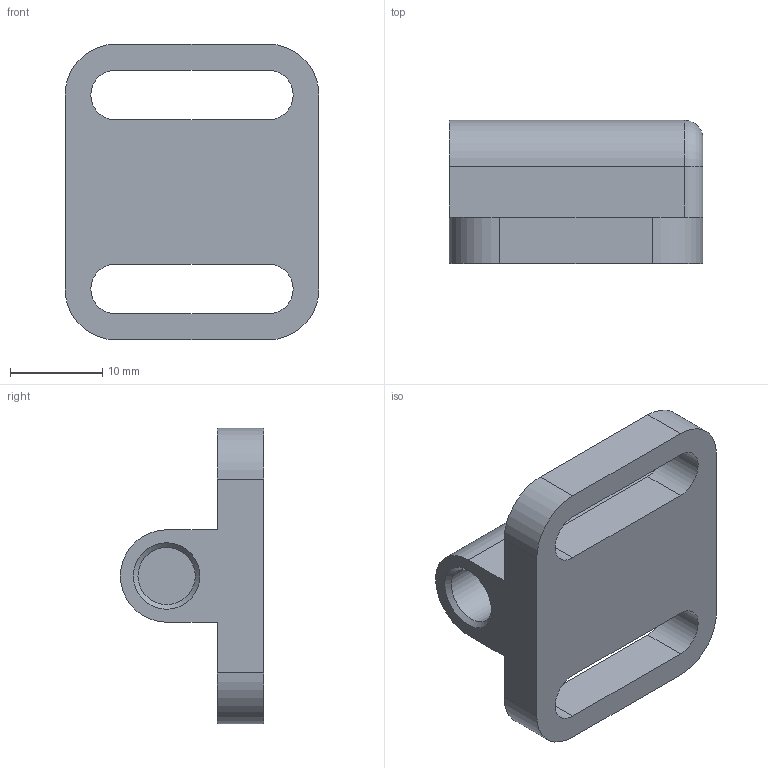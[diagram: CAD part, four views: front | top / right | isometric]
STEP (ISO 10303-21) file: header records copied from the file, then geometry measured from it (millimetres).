
FILE_DESCRIPTION( ( 'STEP AP203' ), '1' );
FILE_NAME( 'C:/Temp/Ganter_Step_05_03_2020/data/3_1/gn_417_1/Locator GN 417.1-6-ST-SW.stp', '2020-03-12T09:12:09', ( 'License CC BY-ND 4.0' ), ( 'CADENAS' ), ' ', 'PARTsolutions', ' ' );
FILE_SCHEMA( ( 'CONFIG_CONTROL_DESIGN' ) );
Length unit declared in the file: millimetre
Products named in the file (1): _Locator GN 417.1-6-ST-SW
Bounding box: 27.5 x 15.5 x 32 mm (x, y, z)
Volume: 4963.5 mm3; surface area: 3415 mm2
Topology: 1 solids, 1 shells, 28 faces, 72 edges, 47 vertices
Faces by surface type: plane 14, cylinder 12, cone 1, torus 1
Full cylindrical faces by diameter (mm): 6.2 x1
Entity records: 900 total; most frequent: DIRECTION 154, CARTESIAN_POINT 146, ORIENTED_EDGE 140, EDGE_CURVE 70, AXIS2_PLACEMENT_3D 55, VERTEX_POINT 47, LINE 44, VECTOR 44
